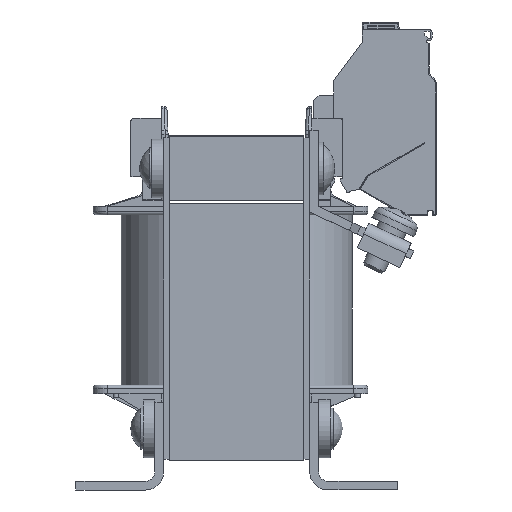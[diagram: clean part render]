
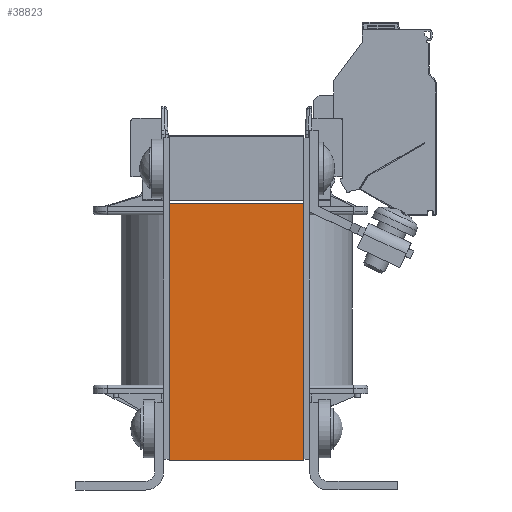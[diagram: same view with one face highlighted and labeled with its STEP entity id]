
A CAD part, left-side view. The second image highlights one B-rep face of the part: STEP entity #38823.
In plain terms, the highlighted planar face has unit normal (-1, 0, 0) as drawn and (1, 0, 0) by its records, which use the part's own axes.
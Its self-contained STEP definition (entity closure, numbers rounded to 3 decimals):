
#865=PLANE('',#41379);
#2502=FACE_OUTER_BOUND('',#4624,.T.);
#4624=EDGE_LOOP('',(#26907,#26908,#26909,#26910));
#6863=LINE('',#54655,#11721);
#6873=LINE('',#54676,#11731);
#6874=LINE('',#54677,#11732);
#6875=LINE('',#54678,#11733);
#11721=VECTOR('',#44194,10.);
#11731=VECTOR('',#44206,10.);
#11732=VECTOR('',#44207,10.);
#11733=VECTOR('',#44208,10.);
#17269=VERTEX_POINT('',#54652);
#17270=VERTEX_POINT('',#54654);
#17279=VERTEX_POINT('',#54674);
#17280=VERTEX_POINT('',#54675);
#21062=EDGE_CURVE('',#17270,#17269,#6863,.T.);
#21072=EDGE_CURVE('',#17279,#17280,#6873,.T.);
#21073=EDGE_CURVE('',#17270,#17280,#6874,.T.);
#21074=EDGE_CURVE('',#17279,#17269,#6875,.T.);
#26907=ORIENTED_EDGE('',*,*,#21072,.T.);
#26908=ORIENTED_EDGE('',*,*,#21073,.F.);
#26909=ORIENTED_EDGE('',*,*,#21062,.T.);
#26910=ORIENTED_EDGE('',*,*,#21074,.F.);
#38823=ADVANCED_FACE('',(#2502),#865,.T.);
#41379=AXIS2_PLACEMENT_3D('',#54673,#44204,#44205);
#44194=DIRECTION('',(0.,0.,-1.));
#44204=DIRECTION('center_axis',(1.,0.,0.));
#44205=DIRECTION('ref_axis',(0.,0.,-1.));
#44206=DIRECTION('',(0.,0.,1.));
#44207=DIRECTION('',(0.,1.,0.));
#44208=DIRECTION('',(0.,-1.,0.));
#54652=CARTESIAN_POINT('',(33.,-11.5,-27.5));
#54654=CARTESIAN_POINT('',(33.,-11.5,16.5));
#54655=CARTESIAN_POINT('',(33.,-11.5,16.5));
#54673=CARTESIAN_POINT('Origin',(33.,0.,-27.5));
#54674=CARTESIAN_POINT('',(33.,11.5,-27.5));
#54675=CARTESIAN_POINT('',(33.,11.5,16.5));
#54676=CARTESIAN_POINT('',(33.,11.5,16.5));
#54677=CARTESIAN_POINT('',(33.,0.,16.5));
#54678=CARTESIAN_POINT('',(33.,0.,-27.5));
